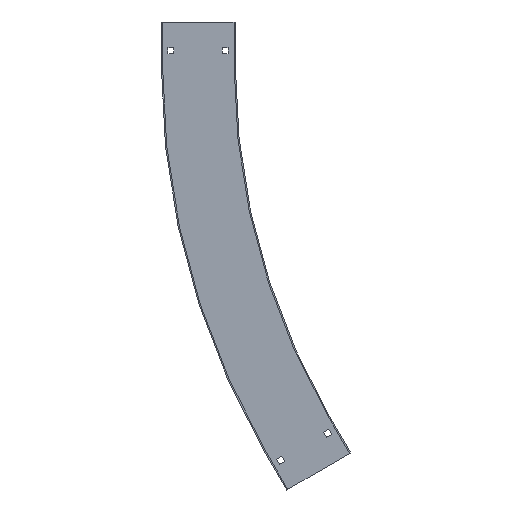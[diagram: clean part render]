
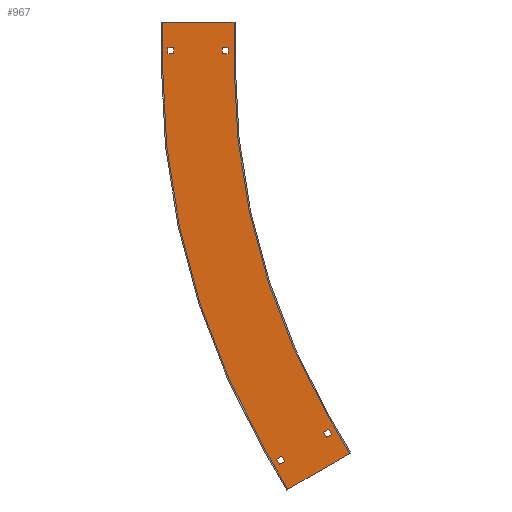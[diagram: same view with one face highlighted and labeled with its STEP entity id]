
A CAD part, left-side view. The second image highlights one B-rep face of the part: STEP entity #967.
In plain terms, the highlighted planar face has unit normal (-1, 0, 0) as drawn and (1, 0, 0) by its records, which use the part's own axes.
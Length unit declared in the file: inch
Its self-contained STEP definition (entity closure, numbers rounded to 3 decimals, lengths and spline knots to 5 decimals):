
#9=DIRECTION('',(0.,1.,0.));
#10=VECTOR('',#9,4.91);
#11=CARTESIAN_POINT('',(0.08,0.085,0.));
#12=LINE('',#11,#10);
#194=DIRECTION('',(0.,0.,1.));
#195=VECTOR('',#194,3.);
#196=CARTESIAN_POINT('',(0.08,4.995,0.));
#197=LINE('',#196,#195);
#198=DIRECTION('',(0.,0.,1.));
#199=VECTOR('',#198,3.);
#200=CARTESIAN_POINT('',(0.08,0.085,0.));
#201=LINE('',#200,#199);
#202=CARTESIAN_POINT('',(0.08,-48.,3.));
#203=DIRECTION('',(1.,0.,0.));
#204=DIRECTION('',(0.,1.,0.));
#205=AXIS2_PLACEMENT_3D('',#202,#203,#204);
#207=DIRECTION('',(0.,-0.5,0.866));
#208=VECTOR('',#207,3.);
#209=CARTESIAN_POINT('',(0.08,-6.35717,27.0425));
#210=LINE('',#209,#208);
#211=DIRECTION('',(0.,0.,1.));
#212=VECTOR('',#211,0.41);
#213=CARTESIAN_POINT('',(0.08,4.622,1.755));
#214=LINE('',#213,#212);
#215=DIRECTION('',(0.,-1.,0.));
#216=VECTOR('',#215,0.41);
#217=CARTESIAN_POINT('',(0.08,4.622,2.165));
#218=LINE('',#217,#216);
#219=DIRECTION('',(0.,0.,-1.));
#220=VECTOR('',#219,0.41);
#221=CARTESIAN_POINT('',(0.08,4.212,2.165));
#222=LINE('',#221,#220);
#223=DIRECTION('',(0.,1.,0.));
#224=VECTOR('',#223,0.41);
#225=CARTESIAN_POINT('',(0.08,4.212,1.755));
#226=LINE('',#225,#224);
#227=DIRECTION('',(0.,0.,1.));
#228=VECTOR('',#227,0.41);
#229=CARTESIAN_POINT('',(0.08,0.897,1.755));
#230=LINE('',#229,#228);
#231=DIRECTION('',(0.,-1.,0.));
#232=VECTOR('',#231,0.41);
#233=CARTESIAN_POINT('',(0.08,0.897,2.165));
#234=LINE('',#233,#232);
#235=DIRECTION('',(0.,0.,-1.));
#236=VECTOR('',#235,0.41);
#237=CARTESIAN_POINT('',(0.08,0.487,2.165));
#238=LINE('',#237,#236);
#239=DIRECTION('',(0.,1.,0.));
#240=VECTOR('',#239,0.41);
#241=CARTESIAN_POINT('',(0.08,0.487,1.755));
#242=LINE('',#241,#240);
#243=DIRECTION('',(0.,-0.866,-0.5));
#244=VECTOR('',#243,0.41);
#245=CARTESIAN_POINT('',(0.08,-3.05051,30.3892));
#246=LINE('',#245,#244);
#247=DIRECTION('',(0.,0.5,-0.866));
#248=VECTOR('',#247,0.41);
#249=CARTESIAN_POINT('',(0.08,-3.40558,30.1842));
#250=LINE('',#249,#248);
#251=DIRECTION('',(0.,0.866,0.5));
#252=VECTOR('',#251,0.41);
#253=CARTESIAN_POINT('',(0.08,-3.20058,29.82913));
#254=LINE('',#253,#252);
#255=DIRECTION('',(0.,-0.5,0.866));
#256=VECTOR('',#255,0.41);
#257=CARTESIAN_POINT('',(0.08,-2.84551,30.03413));
#258=LINE('',#257,#256);
#259=DIRECTION('',(0.,-0.866,-0.5));
#260=VECTOR('',#259,0.41);
#261=CARTESIAN_POINT('',(0.08,-6.27646,28.5267));
#262=LINE('',#261,#260);
#263=DIRECTION('',(0.,0.5,-0.866));
#264=VECTOR('',#263,0.41);
#265=CARTESIAN_POINT('',(0.08,-6.63153,28.3217));
#266=LINE('',#265,#264);
#267=DIRECTION('',(0.,0.866,0.5));
#268=VECTOR('',#267,0.41);
#269=CARTESIAN_POINT('',(0.08,-6.42653,27.96663));
#270=LINE('',#269,#268);
#271=DIRECTION('',(0.,-0.5,0.866));
#272=VECTOR('',#271,0.41);
#273=CARTESIAN_POINT('',(0.08,-6.07146,28.17163));
#274=LINE('',#273,#272);
#336=DIRECTION('',(0.,0.866,0.5));
#337=VECTOR('',#336,4.91);
#338=CARTESIAN_POINT('',(0.08,-7.85717,29.64058));
#339=LINE('',#338,#337);
#416=DIRECTION('',(0.,-0.5,0.866));
#417=VECTOR('',#416,3.);
#418=CARTESIAN_POINT('',(0.08,-2.10498,29.4975));
#419=LINE('',#418,#417);
#424=CARTESIAN_POINT('',(0.08,-48.,3.));
#425=DIRECTION('',(1.,0.,0.));
#426=DIRECTION('',(0.,1.,0.));
#427=AXIS2_PLACEMENT_3D('',#424,#425,#426);
#497=CARTESIAN_POINT('',(0.08,0.085,0.));
#498=VERTEX_POINT('',#497);
#499=CARTESIAN_POINT('',(0.08,4.995,0.));
#500=VERTEX_POINT('',#499);
#518=CARTESIAN_POINT('',(0.08,0.085,3.));
#520=VERTEX_POINT('',#518);
#521=CARTESIAN_POINT('',(0.08,4.995,3.));
#523=VERTEX_POINT('',#521);
#542=CARTESIAN_POINT('',(0.08,-6.35717,27.0425));
#544=VERTEX_POINT('',#542);
#545=CARTESIAN_POINT('',(0.08,-2.10498,29.4975));
#547=VERTEX_POINT('',#545);
#569=CARTESIAN_POINT('',(0.08,-7.85717,29.64058));
#570=VERTEX_POINT('',#569);
#571=CARTESIAN_POINT('',(0.08,-3.60498,32.09558));
#572=VERTEX_POINT('',#571);
#589=CARTESIAN_POINT('',(0.08,4.622,1.755));
#590=CARTESIAN_POINT('',(0.08,4.622,2.165));
#591=VERTEX_POINT('',#589);
#592=VERTEX_POINT('',#590);
#593=CARTESIAN_POINT('',(0.08,4.212,2.165));
#594=VERTEX_POINT('',#593);
#595=CARTESIAN_POINT('',(0.08,4.212,1.755));
#596=VERTEX_POINT('',#595);
#597=CARTESIAN_POINT('',(0.08,0.897,1.755));
#598=CARTESIAN_POINT('',(0.08,0.897,2.165));
#599=VERTEX_POINT('',#597);
#600=VERTEX_POINT('',#598);
#601=CARTESIAN_POINT('',(0.08,0.487,2.165));
#602=VERTEX_POINT('',#601);
#603=CARTESIAN_POINT('',(0.08,0.487,1.755));
#604=VERTEX_POINT('',#603);
#621=CARTESIAN_POINT('',(0.08,-3.05051,30.3892));
#622=CARTESIAN_POINT('',(0.08,-3.40558,30.1842));
#623=VERTEX_POINT('',#621);
#624=VERTEX_POINT('',#622);
#625=CARTESIAN_POINT('',(0.08,-3.20058,29.82913));
#626=VERTEX_POINT('',#625);
#627=CARTESIAN_POINT('',(0.08,-2.84551,30.03413));
#628=VERTEX_POINT('',#627);
#629=CARTESIAN_POINT('',(0.08,-6.27646,28.5267));
#630=CARTESIAN_POINT('',(0.08,-6.63153,28.3217));
#631=VERTEX_POINT('',#629);
#632=VERTEX_POINT('',#630);
#633=CARTESIAN_POINT('',(0.08,-6.42653,27.96663));
#634=VERTEX_POINT('',#633);
#635=CARTESIAN_POINT('',(0.08,-6.07146,28.17163));
#636=VERTEX_POINT('',#635);
#906=CARTESIAN_POINT('',(0.08,0.085,0.));
#907=DIRECTION('',(1.,0.,0.));
#908=DIRECTION('',(0.,1.,0.));
#909=AXIS2_PLACEMENT_3D('',#906,#907,#908);
#910=PLANE('',#909);
#911=ORIENTED_EDGE('',*,*,#662,.F.);
#913=ORIENTED_EDGE('',*,*,#912,.T.);
#915=ORIENTED_EDGE('',*,*,#914,.T.);
#917=ORIENTED_EDGE('',*,*,#916,.T.);
#919=ORIENTED_EDGE('',*,*,#918,.T.);
#921=ORIENTED_EDGE('',*,*,#920,.F.);
#923=ORIENTED_EDGE('',*,*,#922,.F.);
#924=ORIENTED_EDGE('',*,*,#898,.F.);
#925=EDGE_LOOP('',(#911,#913,#915,#917,#919,#921,#923,#924));
#926=FACE_OUTER_BOUND('',#925,.F.);
#928=ORIENTED_EDGE('',*,*,#927,.T.);
#930=ORIENTED_EDGE('',*,*,#929,.T.);
#932=ORIENTED_EDGE('',*,*,#931,.T.);
#934=ORIENTED_EDGE('',*,*,#933,.T.);
#935=EDGE_LOOP('',(#928,#930,#932,#934));
#936=FACE_BOUND('',#935,.F.);
#938=ORIENTED_EDGE('',*,*,#937,.T.);
#940=ORIENTED_EDGE('',*,*,#939,.T.);
#942=ORIENTED_EDGE('',*,*,#941,.T.);
#944=ORIENTED_EDGE('',*,*,#943,.T.);
#945=EDGE_LOOP('',(#938,#940,#942,#944));
#946=FACE_BOUND('',#945,.F.);
#948=ORIENTED_EDGE('',*,*,#947,.T.);
#950=ORIENTED_EDGE('',*,*,#949,.T.);
#952=ORIENTED_EDGE('',*,*,#951,.T.);
#954=ORIENTED_EDGE('',*,*,#953,.T.);
#955=EDGE_LOOP('',(#948,#950,#952,#954));
#956=FACE_BOUND('',#955,.F.);
#958=ORIENTED_EDGE('',*,*,#957,.T.);
#960=ORIENTED_EDGE('',*,*,#959,.T.);
#962=ORIENTED_EDGE('',*,*,#961,.T.);
#964=ORIENTED_EDGE('',*,*,#963,.T.);
#965=EDGE_LOOP('',(#958,#960,#962,#964));
#966=FACE_BOUND('',#965,.F.);
#967=ADVANCED_FACE('',(#926,#936,#946,#956,#966),#910,.T.);
#206=CIRCLE('',#205,48.085);
#428=CIRCLE('',#427,52.995);
#662=EDGE_CURVE('',#498,#500,#12,.T.);
#898=EDGE_CURVE('',#500,#523,#197,.T.);
#912=EDGE_CURVE('',#498,#520,#201,.T.);
#914=EDGE_CURVE('',#520,#544,#206,.T.);
#916=EDGE_CURVE('',#544,#570,#210,.T.);
#918=EDGE_CURVE('',#570,#572,#339,.T.);
#920=EDGE_CURVE('',#547,#572,#419,.T.);
#922=EDGE_CURVE('',#523,#547,#428,.T.);
#927=EDGE_CURVE('',#591,#592,#214,.T.);
#929=EDGE_CURVE('',#592,#594,#218,.T.);
#931=EDGE_CURVE('',#594,#596,#222,.T.);
#933=EDGE_CURVE('',#596,#591,#226,.T.);
#937=EDGE_CURVE('',#599,#600,#230,.T.);
#939=EDGE_CURVE('',#600,#602,#234,.T.);
#941=EDGE_CURVE('',#602,#604,#238,.T.);
#943=EDGE_CURVE('',#604,#599,#242,.T.);
#947=EDGE_CURVE('',#623,#624,#246,.T.);
#949=EDGE_CURVE('',#624,#626,#250,.T.);
#951=EDGE_CURVE('',#626,#628,#254,.T.);
#953=EDGE_CURVE('',#628,#623,#258,.T.);
#957=EDGE_CURVE('',#631,#632,#262,.T.);
#959=EDGE_CURVE('',#632,#634,#266,.T.);
#961=EDGE_CURVE('',#634,#636,#270,.T.);
#963=EDGE_CURVE('',#636,#631,#274,.T.);
